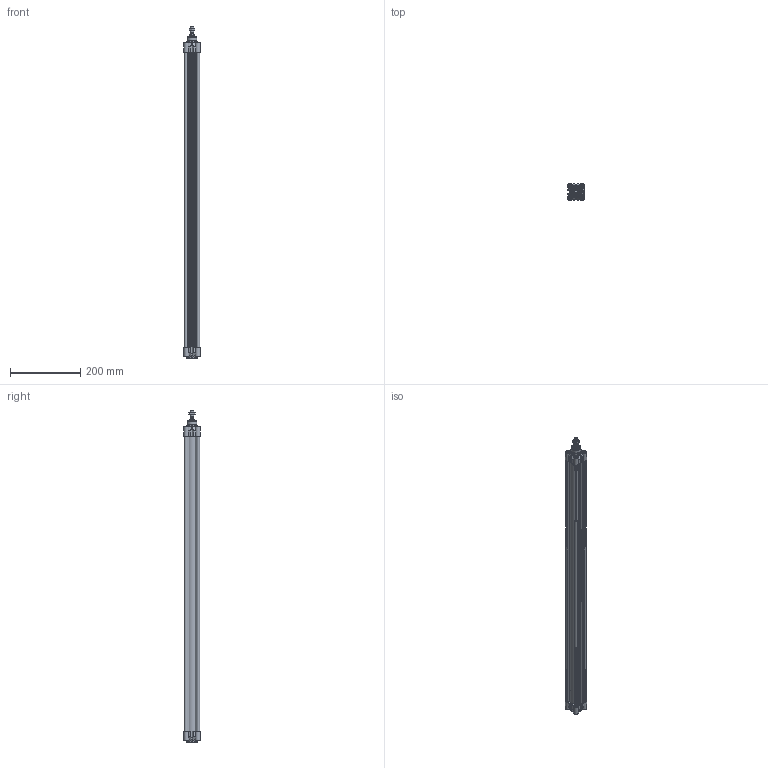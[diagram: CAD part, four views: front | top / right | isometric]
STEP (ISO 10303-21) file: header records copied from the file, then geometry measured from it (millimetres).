
FILE_DESCRIPTION(/* description */ ('Unknown'),/* implementation_level */ '2;1');
FILE_NAME(/* name */ 'HIF 32_800',/* time_stamp */ '2024-08-08T13:03:58+02:00',/* author */ ('Unknown'),/* organization */ ('Unknown'),/* preprocessor_version */ 'ST-DEVELOPER v16.7',/* originating_system */ 'Solid Edge',/* authorisation */ 'Unknown');
FILE_SCHEMA (('AUTOMOTIVE_DESIGN {1 0 10303 214 3 1 1}'));
Length unit declared in the file: millimetre
Products named in the file (6): HIF 32_800; Prfilrohr 32_800; Mutter; Kolbenstange 32_800; Kit_1; Kit_2
Assembly tree (5 placements, depth 2):
  HIF 32_800
    Prfilrohr 32_800
    Mutter
    Kolbenstange 32_800
    Kit_1
    Kit_2
Bounding box: 47 x 47 x 946 mm (x, y, z)
Volume: 656131 mm3; surface area: 472687.7 mm2
Topology: 5 solids, 12 shells, 957 faces, 2431 edges, 1577 vertices
Faces by surface type: cylinder 372, plane 329, cone 96, torus 75, bspline 65, sphere 20
Full cylindrical faces by diameter (mm): 2.1 x2, 4.917 x16, 6 x8, 6.2 x8, 7 x2, 7.9 x1, 7.991 x2, 8 x2, 8.56 x2, 8.566 x2, 8.647 x1, 10 x9, 10.3 x8, 11.6 x1, 11.804 x1, 12 x3, 12.8 x1, 12.847 x1, 16 x2, 22 x2, 28 x1, 30 x2, 32 x2
Entity records: 36933 total; most frequent: CARTESIAN_POINT 9326, ORIENTED_EDGE 4712, DIRECTION 4309, EDGE_CURVE 2356, AXIS2_PLACEMENT_3D 1706, VERTEX_POINT 1559, FACE_BOUND 1117, EDGE_LOOP 1109
